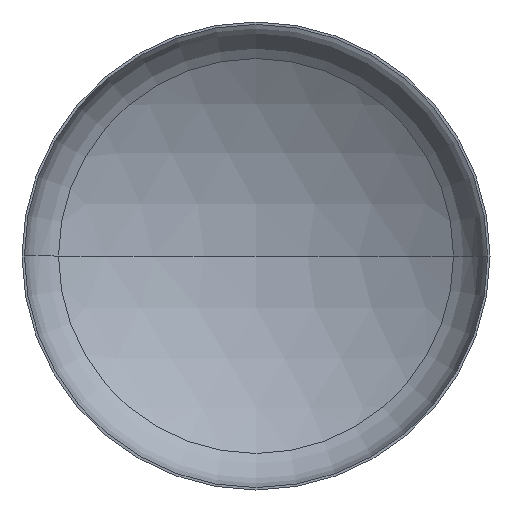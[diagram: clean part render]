
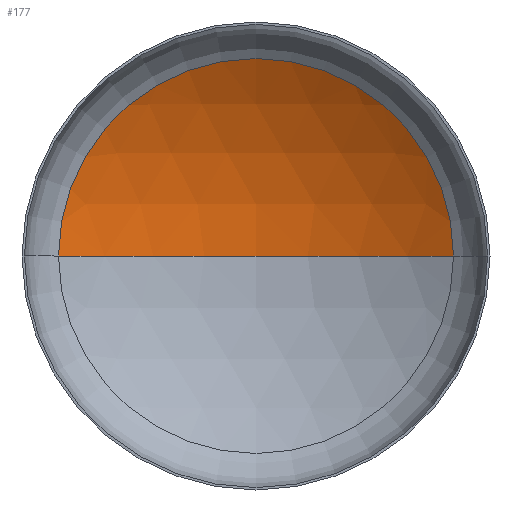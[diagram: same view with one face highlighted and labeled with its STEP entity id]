
A CAD part, front view. The second image highlights one B-rep face of the part: STEP entity #177.
In plain terms, the highlighted spherical face has radius 3600 mm.
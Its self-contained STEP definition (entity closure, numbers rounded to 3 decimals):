
#1 = AXIS2_PLACEMENT_3D ( 'NONE', #238, #235, #234 ) ;
#27 = DIRECTION ( 'NONE',  ( 0., 0., -1. ) ) ;
#30 = AXIS2_PLACEMENT_3D ( 'NONE', #273, #122, #248 ) ;
#36 = AXIS2_PLACEMENT_3D ( 'NONE', #400, #27, #293 ) ;
#37 = AXIS2_PLACEMENT_3D ( 'NONE', #387, #401, #407 ) ;
#81 = VERTEX_POINT ( 'NONE', #374 ) ;
#83 = VERTEX_POINT ( 'NONE', #117 ) ;
#88 = EDGE_CURVE ( 'NONE', #119, #81, #328, .T. ) ;
#90 = EDGE_CURVE ( 'NONE', #83, #119, #256, .T. ) ;
#111 = ORIENTED_EDGE ( 'NONE', *, *, #88, .T. ) ;
#117 = CARTESIAN_POINT ( 'NONE',  ( 0., 1201.802, 0. ) ) ;
#119 = VERTEX_POINT ( 'NONE', #296 ) ;
#122 = DIRECTION ( 'NONE',  ( 0., 0., -1. ) ) ;
#126 = ORIENTED_EDGE ( 'NONE', *, *, #90, .T. ) ;
#177 = ADVANCED_FACE ( 'NONE', ( #180 ), #319, .F. ) ;
#180 = FACE_OUTER_BOUND ( 'NONE', #186, .T. ) ;
#182 = ORIENTED_EDGE ( 'NONE', *, *, #357, .F. ) ;
#186 = EDGE_LOOP ( 'NONE', ( #182, #126, #111 ) ) ;
#234 = DIRECTION ( 'NONE',  ( 1., 0., 0. ) ) ;
#235 = DIRECTION ( 'NONE',  ( 0., 0., 1. ) ) ;
#238 = CARTESIAN_POINT ( 'NONE',  ( 0., -2398.198, 0. ) ) ;
#248 = DIRECTION ( 'NONE',  ( -1., 0., 0. ) ) ;
#256 = CIRCLE ( 'NONE', #36, 3600. ) ;
#273 = CARTESIAN_POINT ( 'NONE',  ( 0., -2398.198, 0. ) ) ;
#293 = DIRECTION ( 'NONE',  ( -1., 0., 0. ) ) ;
#296 = CARTESIAN_POINT ( 'NONE',  ( 1898.52, 660.498, 0. ) ) ;
#319 = SPHERICAL_SURFACE ( 'NONE', #30, 3600. ) ;
#328 = CIRCLE ( 'NONE', #37, 1898.52 ) ;
#357 = EDGE_CURVE ( 'NONE', #83, #81, #410, .T. ) ;
#374 = CARTESIAN_POINT ( 'NONE',  ( -1898.52, 660.498, 0. ) ) ;
#387 = CARTESIAN_POINT ( 'NONE',  ( 0., 660.498, 0. ) ) ;
#400 = CARTESIAN_POINT ( 'NONE',  ( 0., -2398.198, 0. ) ) ;
#401 = DIRECTION ( 'NONE',  ( 0., -1., 0. ) ) ;
#407 = DIRECTION ( 'NONE',  ( 1., 0., 0. ) ) ;
#410 = CIRCLE ( 'NONE', #1, 3600. ) ;
